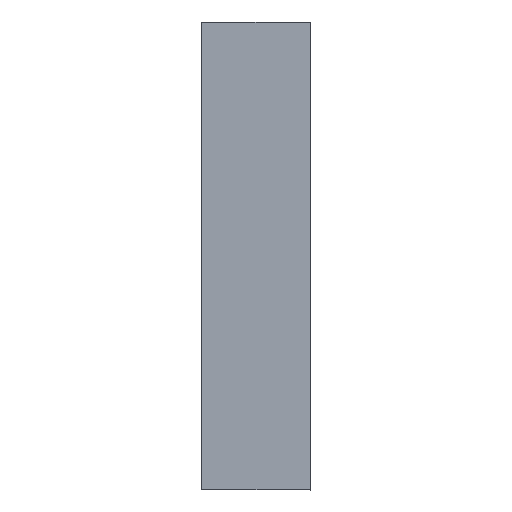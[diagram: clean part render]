
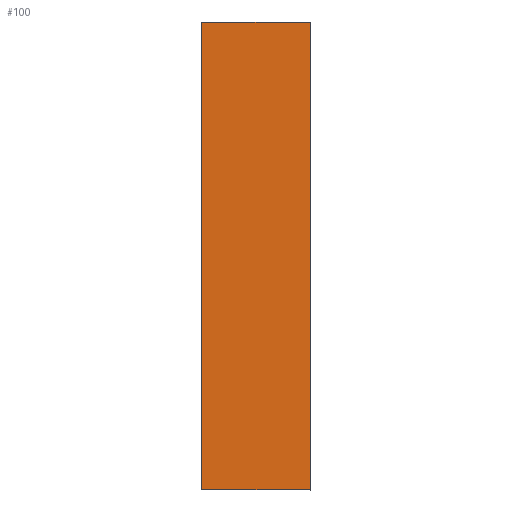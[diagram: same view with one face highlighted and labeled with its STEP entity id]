
A CAD part, left-side view. The second image highlights one B-rep face of the part: STEP entity #100.
In plain terms, the highlighted planar face has unit normal (-1, 0, 0).
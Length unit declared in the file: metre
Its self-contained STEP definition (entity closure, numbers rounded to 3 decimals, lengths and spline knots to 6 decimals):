
#20=ORIENTED_EDGE('',*,*,#43,.T.);
#21=ORIENTED_EDGE('',*,*,#44,.F.);
#22=ORIENTED_EDGE('',*,*,#45,.F.);
#23=ORIENTED_EDGE('',*,*,#41,.T.);
#41=EDGE_CURVE('',#53,#52,#61,.T.);
#43=EDGE_CURVE('',#52,#54,#63,.T.);
#44=EDGE_CURVE('',#55,#54,#64,.T.);
#45=EDGE_CURVE('',#53,#55,#65,.T.);
#52=VERTEX_POINT('',#161);
#53=VERTEX_POINT('',#163);
#54=VERTEX_POINT('',#167);
#55=VERTEX_POINT('',#169);
#61=LINE('',#162,#73);
#63=LINE('',#166,#75);
#64=LINE('',#168,#76);
#65=LINE('',#170,#77);
#73=VECTOR('',#134,1.);
#75=VECTOR('',#138,1.);
#76=VECTOR('',#139,1.);
#77=VECTOR('',#140,1.);
#82=EDGE_LOOP('',(#20,#21,#22,#23));
#88=FACE_BOUND('',#82,.T.);
#94=PLANE('',#119);
#100=ADVANCED_FACE('',(#88),#94,.F.);
#119=AXIS2_PLACEMENT_3D('',#165,#136,#137);
#134=DIRECTION('',(0.,0.,-1.));
#136=DIRECTION('',(1.,0.,0.));
#137=DIRECTION('',(0.,1.,0.));
#138=DIRECTION('',(0.,-1.,0.));
#139=DIRECTION('',(0.,0.,-1.));
#140=DIRECTION('',(0.,-1.,0.));
#161=CARTESIAN_POINT('',(-0.303942,-0.01553,0.193613));
#162=CARTESIAN_POINT('',(-0.303942,-0.01553,0.199613));
#163=CARTESIAN_POINT('',(-0.303942,-0.01553,0.199613));
#165=CARTESIAN_POINT('',(-0.303942,-0.01553,0.199613));
#166=CARTESIAN_POINT('',(-0.303942,-0.01553,0.193613));
#167=CARTESIAN_POINT('',(-0.303942,-0.01692,0.193613));
#168=CARTESIAN_POINT('',(-0.303942,-0.01692,0.199613));
#169=CARTESIAN_POINT('',(-0.303942,-0.01692,0.199613));
#170=CARTESIAN_POINT('',(-0.303942,-0.01553,0.199613));
